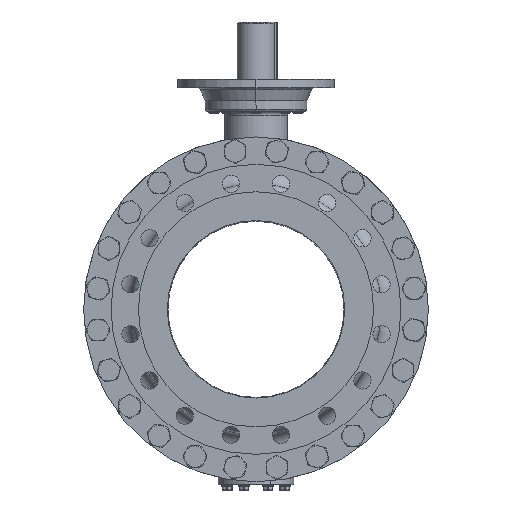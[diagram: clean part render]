
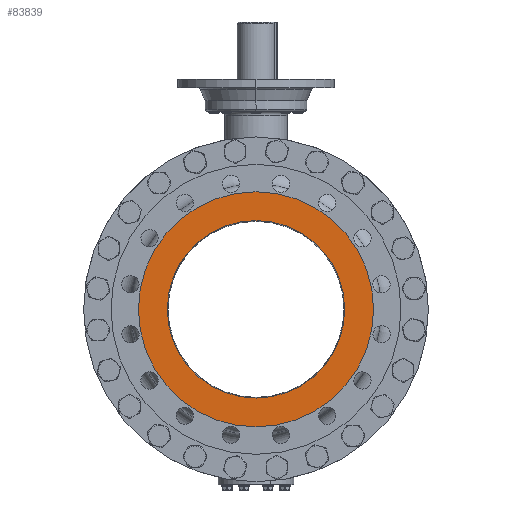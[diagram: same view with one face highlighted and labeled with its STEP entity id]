
A CAD part, left-side view. The second image highlights one B-rep face of the part: STEP entity #83839.
In plain terms, the highlighted planar face has unit normal (-1, 0, 0).
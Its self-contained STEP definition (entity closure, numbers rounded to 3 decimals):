
#12993=CARTESIAN_POINT('',(-343.,0.,0.));
#12994=DIRECTION('',(1.,0.,0.));
#12995=DIRECTION('',(0.,0.,1.));
#12996=AXIS2_PLACEMENT_3D('',#12993,#12994,#12995);
#12998=CARTESIAN_POINT('',(-343.,0.,0.));
#12999=DIRECTION('',(1.,0.,0.));
#13000=DIRECTION('',(0.,0.,-1.));
#13001=AXIS2_PLACEMENT_3D('',#12998,#12999,#13000);
#13003=CARTESIAN_POINT('',(-343.,0.,0.));
#13004=DIRECTION('',(1.,0.,0.));
#13005=DIRECTION('',(0.,0.,1.));
#13006=AXIS2_PLACEMENT_3D('',#13003,#13004,#13005);
#13008=CARTESIAN_POINT('',(-343.,0.,0.));
#13009=DIRECTION('',(-1.,0.,0.));
#13010=DIRECTION('',(0.,0.,1.));
#13011=AXIS2_PLACEMENT_3D('',#13008,#13009,#13010);
#58999=CARTESIAN_POINT('',(-343.,0.,169.8));
#59001=VERTEX_POINT('',#58999);
#59003=CARTESIAN_POINT('',(-343.,0.,-169.8));
#59005=VERTEX_POINT('',#59003);
#59034=CARTESIAN_POINT('',(-343.,0.,225.));
#59035=CARTESIAN_POINT('',(-343.,0.,-225.));
#59036=VERTEX_POINT('',#59034);
#59037=VERTEX_POINT('',#59035);
#83824=CARTESIAN_POINT('',(-343.,0.,0.));
#83825=DIRECTION('',(-1.,0.,0.));
#83826=DIRECTION('',(0.,0.,-1.));
#83827=AXIS2_PLACEMENT_3D('',#83824,#83825,#83826);
#83828=PLANE('',#83827);
#83830=ORIENTED_EDGE('',*,*,#83829,.T.);
#83832=ORIENTED_EDGE('',*,*,#83831,.T.);
#83833=EDGE_LOOP('',(#83830,#83832));
#83834=FACE_OUTER_BOUND('',#83833,.F.);
#83835=ORIENTED_EDGE('',*,*,#83817,.F.);
#83836=ORIENTED_EDGE('',*,*,#83806,.T.);
#83837=EDGE_LOOP('',(#83835,#83836));
#83838=FACE_BOUND('',#83837,.F.);
#83839=ADVANCED_FACE('',(#83834,#83838),#83828,.T.);
#12997=CIRCLE('',#12996,225.);
#13002=CIRCLE('',#13001,225.);
#13007=CIRCLE('',#13006,169.8);
#13012=CIRCLE('',#13011,169.8);
#83806=EDGE_CURVE('',#59001,#59005,#13012,.T.);
#83817=EDGE_CURVE('',#59001,#59005,#13007,.T.);
#83829=EDGE_CURVE('',#59036,#59037,#12997,.T.);
#83831=EDGE_CURVE('',#59037,#59036,#13002,.T.);
